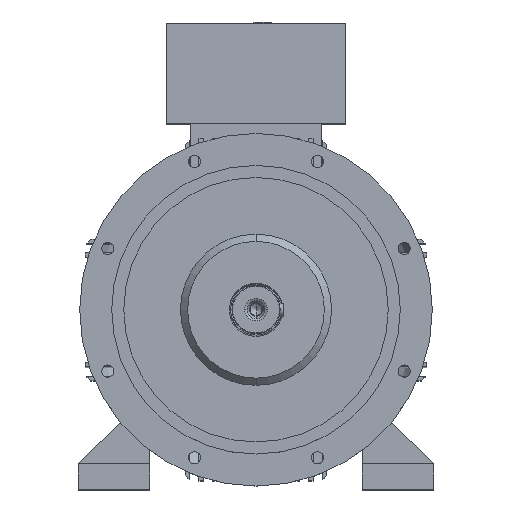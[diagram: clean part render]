
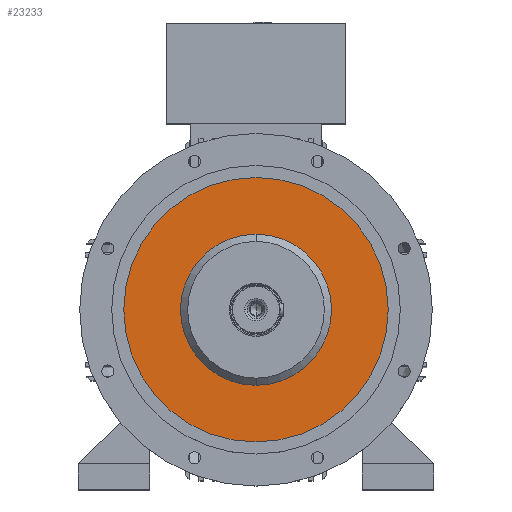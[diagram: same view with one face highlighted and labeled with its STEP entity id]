
A CAD part, top view. The second image highlights one B-rep face of the part: STEP entity #23233.
In plain terms, the highlighted planar face has unit normal (0, 0, 1).
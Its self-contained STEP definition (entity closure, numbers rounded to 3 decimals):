
#114 = CARTESIAN_POINT ( 'NONE',  ( 0., 0., 386.3 ) ) ;
#708 = PLANE ( 'NONE',  #30703 ) ;
#1001 = DIRECTION ( 'NONE',  ( -1., 0., 0. ) ) ;
#3031 = EDGE_LOOP ( 'NONE', ( #24115, #7070 ) ) ;
#3266 = DIRECTION ( 'NONE',  ( 0., 0., 1. ) ) ;
#3312 = VERTEX_POINT ( 'NONE', #28483 ) ;
#3903 = DIRECTION ( 'NONE',  ( 0., 0., -1. ) ) ;
#6375 = VERTEX_POINT ( 'NONE', #10633 ) ;
#6846 = FACE_OUTER_BOUND ( 'NONE', #10566, .T. ) ;
#7070 = ORIENTED_EDGE ( 'NONE', *, *, #23366, .T. ) ;
#7741 = DIRECTION ( 'NONE',  ( 1., 0., 0. ) ) ;
#7935 = DIRECTION ( 'NONE',  ( 0., 0., -1. ) ) ;
#8120 = CIRCLE ( 'NONE', #10361, 117.8 ) ;
#9409 = CIRCLE ( 'NONE', #29093, 117.8 ) ;
#10361 = AXIS2_PLACEMENT_3D ( 'NONE', #19719, #7935, #24484 ) ;
#10566 = EDGE_LOOP ( 'NONE', ( #26107, #20219 ) ) ;
#10633 = CARTESIAN_POINT ( 'NONE',  ( 0., -117.8, 386.3 ) ) ;
#10914 = FACE_BOUND ( 'NONE', #3031, .T. ) ;
#12684 = DIRECTION ( 'NONE',  ( 0., 0., 1. ) ) ;
#15074 = CARTESIAN_POINT ( 'NONE',  ( 0., 206.25, 386.3 ) ) ;
#16603 = CARTESIAN_POINT ( 'NONE',  ( -206.25, 0., 386.3 ) ) ;
#16999 = CARTESIAN_POINT ( 'NONE',  ( 0., 117.8, 386.3 ) ) ;
#17476 = CIRCLE ( 'NONE', #21639, 206.25 ) ;
#18124 = CIRCLE ( 'NONE', #28639, 206.25 ) ;
#19028 = DIRECTION ( 'NONE',  ( -1., 0., 0. ) ) ;
#19719 = CARTESIAN_POINT ( 'NONE',  ( 0., 0., 386.3 ) ) ;
#20023 = CARTESIAN_POINT ( 'NONE',  ( 0., 0., 386.3 ) ) ;
#20219 = ORIENTED_EDGE ( 'NONE', *, *, #20705, .T. ) ;
#20671 = EDGE_CURVE ( 'NONE', #23840, #6375, #8120, .T. ) ;
#20705 = EDGE_CURVE ( 'NONE', #3312, #29803, #18124, .T. ) ;
#21639 = AXIS2_PLACEMENT_3D ( 'NONE', #114, #23486, #19028 ) ;
#23233 = ADVANCED_FACE ( 'NONE', ( #6846, #10914 ), #708, .T. ) ;
#23366 = EDGE_CURVE ( 'NONE', #6375, #23840, #9409, .T. ) ;
#23486 = DIRECTION ( 'NONE',  ( 0., 0., 1. ) ) ;
#23840 = VERTEX_POINT ( 'NONE', #16999 ) ;
#24115 = ORIENTED_EDGE ( 'NONE', *, *, #20671, .T. ) ;
#24484 = DIRECTION ( 'NONE',  ( 0., 1., 0. ) ) ;
#26107 = ORIENTED_EDGE ( 'NONE', *, *, #29170, .T. ) ;
#28483 = CARTESIAN_POINT ( 'NONE',  ( 206.25, 0., 386.3 ) ) ;
#28639 = AXIS2_PLACEMENT_3D ( 'NONE', #29378, #12684, #1001 ) ;
#29093 = AXIS2_PLACEMENT_3D ( 'NONE', #20023, #3903, #29988 ) ;
#29170 = EDGE_CURVE ( 'NONE', #29803, #3312, #17476, .T. ) ;
#29378 = CARTESIAN_POINT ( 'NONE',  ( 0., 0., 386.3 ) ) ;
#29803 = VERTEX_POINT ( 'NONE', #16603 ) ;
#29988 = DIRECTION ( 'NONE',  ( 0., 1., 0. ) ) ;
#30703 = AXIS2_PLACEMENT_3D ( 'NONE', #15074, #3266, #7741 ) ;
